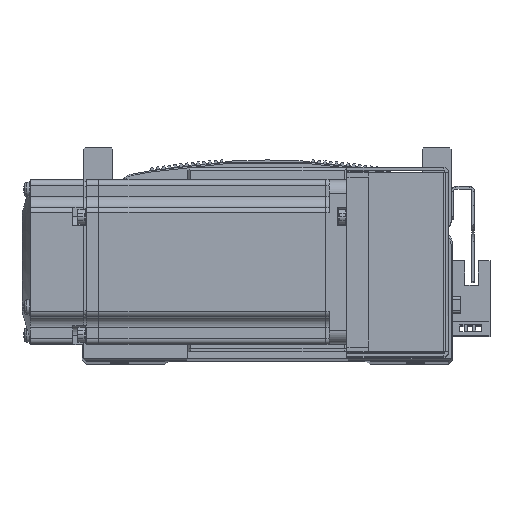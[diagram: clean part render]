
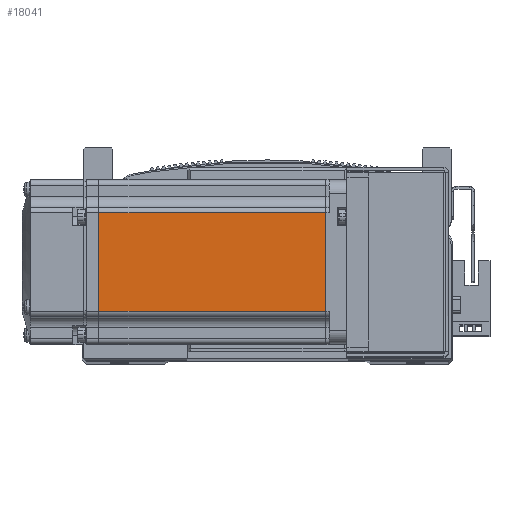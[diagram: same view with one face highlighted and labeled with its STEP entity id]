
A CAD part, top view. The second image highlights one B-rep face of the part: STEP entity #18041.
In plain terms, the highlighted planar face has unit normal (0, 0, 1) as drawn and (0, -1, 0) by its records, which use the part's own axes.
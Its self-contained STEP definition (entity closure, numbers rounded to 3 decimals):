
#2632 = FACE_OUTER_BOUND ( 'NONE', #37517, .T. ) ;
#4110 = PLANE ( 'NONE',  #16341 ) ;
#4129 = DIRECTION ( 'NONE',  ( 0., 0., -1. ) ) ;
#4133 = CARTESIAN_POINT ( 'NONE',  ( -6.5, -30., -25. ) ) ;
#4155 = DIRECTION ( 'NONE',  ( 0., -1., 0. ) ) ;
#16341 = AXIS2_PLACEMENT_3D ( 'NONE', #4133, #4155, #4129 ) ;
#18041 = ADVANCED_FACE ( 'NONE', ( #2632 ), #4110, .T. ) ;
#37517 = EDGE_LOOP ( 'NONE', ( #52264, #52295, #52293, #52242 ) ) ;
#40631 = CARTESIAN_POINT ( 'NONE',  ( -7.75, -30., 18. ) ) ;
#40717 = CARTESIAN_POINT ( 'NONE',  ( -90.45, -30., 18. ) ) ;
#40738 = CARTESIAN_POINT ( 'NONE',  ( -7.75, -30., -18. ) ) ;
#40775 = CARTESIAN_POINT ( 'NONE',  ( -90.45, -30., -18. ) ) ;
#47613 = VERTEX_POINT ( 'NONE', #40631 ) ;
#47641 = VERTEX_POINT ( 'NONE', #40717 ) ;
#47800 = VERTEX_POINT ( 'NONE', #40775 ) ;
#47810 = VERTEX_POINT ( 'NONE', #40738 ) ;
#52242 = ORIENTED_EDGE ( 'NONE', *, *, #66877, .F. ) ;
#52264 = ORIENTED_EDGE ( 'NONE', *, *, #67189, .F. ) ;
#52293 = ORIENTED_EDGE ( 'NONE', *, *, #67176, .T. ) ;
#52295 = ORIENTED_EDGE ( 'NONE', *, *, #67012, .T. ) ;
#54740 = VECTOR ( 'NONE', #56711, 1000. ) ;
#54752 = LINE ( 'NONE', #56657, #54740 ) ;
#54778 = LINE ( 'NONE', #56834, #54781 ) ;
#54781 = VECTOR ( 'NONE', #56835, 1000. ) ;
#54899 = LINE ( 'NONE', #57069, #54954 ) ;
#54916 = VECTOR ( 'NONE', #57030, 1000. ) ;
#54939 = LINE ( 'NONE', #57088, #54916 ) ;
#54954 = VECTOR ( 'NONE', #57073, 1000. ) ;
#56657 = CARTESIAN_POINT ( 'NONE',  ( -6.5, -30., -18. ) ) ;
#56711 = DIRECTION ( 'NONE',  ( -1., 0., 0. ) ) ;
#56834 = CARTESIAN_POINT ( 'NONE',  ( -6.5, -30., 18. ) ) ;
#56835 = DIRECTION ( 'NONE',  ( -1., 0., 0. ) ) ;
#57030 = DIRECTION ( 'NONE',  ( 0., 0., -1. ) ) ;
#57069 = CARTESIAN_POINT ( 'NONE',  ( -90.45, -30., 0. ) ) ;
#57073 = DIRECTION ( 'NONE',  ( 0., 0., -1. ) ) ;
#57088 = CARTESIAN_POINT ( 'NONE',  ( -7.75, -30., 0. ) ) ;
#66877 = EDGE_CURVE ( 'NONE', #47810, #47800, #54752, .T. ) ;
#67012 = EDGE_CURVE ( 'NONE', #47613, #47641, #54778, .T. ) ;
#67176 = EDGE_CURVE ( 'NONE', #47641, #47800, #54899, .T. ) ;
#67189 = EDGE_CURVE ( 'NONE', #47613, #47810, #54939, .T. ) ;
